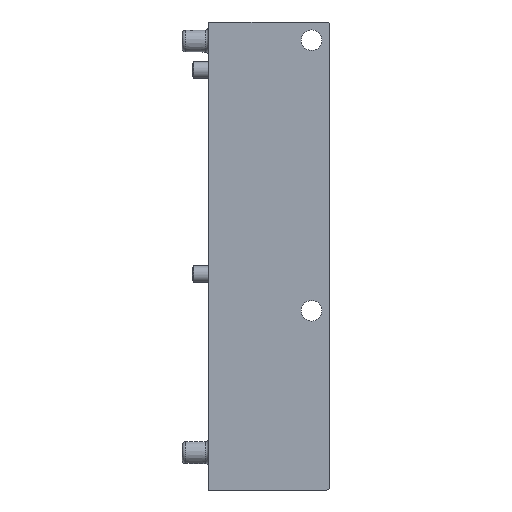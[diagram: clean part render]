
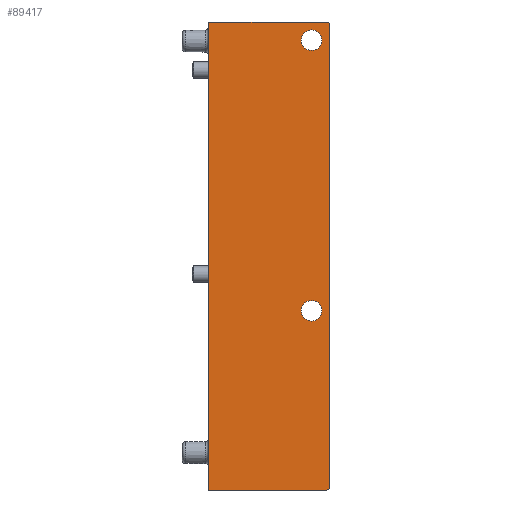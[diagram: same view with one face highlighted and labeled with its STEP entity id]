
A CAD part, front view. The second image highlights one B-rep face of the part: STEP entity #89417.
In plain terms, the highlighted planar face has unit normal (0, -1, 0).
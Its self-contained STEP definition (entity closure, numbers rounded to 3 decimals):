
#2468 = VERTEX_POINT ( 'NONE', #60011 ) ;
#4922 = VECTOR ( 'NONE', #58584, 1000. ) ;
#5177 = EDGE_CURVE ( 'NONE', #38485, #89842, #79753, .T. ) ;
#6629 = DIRECTION ( 'NONE',  ( 1., 0., 0. ) ) ;
#6823 = EDGE_CURVE ( 'NONE', #2468, #2468, #68220, .T. ) ;
#7840 = CARTESIAN_POINT ( 'NONE',  ( 18.75, 0., 70.5 ) ) ;
#8218 = VECTOR ( 'NONE', #38830, 1000. ) ;
#9664 = AXIS2_PLACEMENT_3D ( 'NONE', #81141, #33869, #89060 ) ;
#10654 = VERTEX_POINT ( 'NONE', #73392 ) ;
#16443 = AXIS2_PLACEMENT_3D ( 'NONE', #26537, #81852, #34555 ) ;
#19778 = EDGE_LOOP ( 'NONE', ( #100662, #23281, #50696, #42378, #75337, #80488 ) ) ;
#21852 = DIRECTION ( 'NONE',  ( 0., -1., 0. ) ) ;
#23245 = FACE_BOUND ( 'NONE', #80343, .T. ) ;
#23281 = ORIENTED_EDGE ( 'NONE', *, *, #5177, .T. ) ;
#23469 = VERTEX_POINT ( 'NONE', #56837 ) ;
#23476 = AXIS2_PLACEMENT_3D ( 'NONE', #101208, #53967, #6629 ) ;
#24047 = VERTEX_POINT ( 'NONE', #96062 ) ;
#25886 = LINE ( 'NONE', #50692, #4922 ) ;
#26537 = CARTESIAN_POINT ( 'NONE',  ( 7.75, 0., 70.5 ) ) ;
#26706 = VERTEX_POINT ( 'NONE', #91018 ) ;
#28735 = CIRCLE ( 'NONE', #33852, 1. ) ;
#29967 = EDGE_CURVE ( 'NONE', #38485, #26706, #37798, .T. ) ;
#33486 = EDGE_CURVE ( 'NONE', #24047, #10654, #92225, .T. ) ;
#33852 = AXIS2_PLACEMENT_3D ( 'NONE', #69146, #21852, #77060 ) ;
#33869 = DIRECTION ( 'NONE',  ( 0., 1., 0. ) ) ;
#34555 = DIRECTION ( 'NONE',  ( 1., 0., 0. ) ) ;
#36272 = CARTESIAN_POINT ( 'NONE',  ( 7.75, 0., -70.5 ) ) ;
#36693 = DIRECTION ( 'NONE',  ( 0., 1., 0. ) ) ;
#37798 = LINE ( 'NONE', #36272, #58746 ) ;
#38485 = VERTEX_POINT ( 'NONE', #90427 ) ;
#38830 = DIRECTION ( 'NONE',  ( -1., 0., 0. ) ) ;
#41707 = EDGE_CURVE ( 'NONE', #77813, #77813, #47291, .T. ) ;
#42218 = PLANE ( 'NONE',  #16443 ) ;
#42378 = ORIENTED_EDGE ( 'NONE', *, *, #44539, .T. ) ;
#42638 = AXIS2_PLACEMENT_3D ( 'NONE', #83966, #36693, #91907 ) ;
#44539 = EDGE_CURVE ( 'NONE', #23469, #24047, #28735, .T. ) ;
#47291 = CIRCLE ( 'NONE', #9664, 3.093 ) ;
#48121 = EDGE_CURVE ( 'NONE', #89842, #23469, #55091, .T. ) ;
#49568 = EDGE_LOOP ( 'NONE', ( #94803 ) ) ;
#50692 = CARTESIAN_POINT ( 'NONE',  ( -17.75, 0., 70.5 ) ) ;
#50696 = ORIENTED_EDGE ( 'NONE', *, *, #48121, .T. ) ;
#52430 = EDGE_CURVE ( 'NONE', #10654, #26706, #25886, .T. ) ;
#52633 = VECTOR ( 'NONE', #55115, 1000. ) ;
#53967 = DIRECTION ( 'NONE',  ( 0., -1., 0. ) ) ;
#55091 = LINE ( 'NONE', #7840, #52633 ) ;
#55115 = DIRECTION ( 'NONE',  ( 0., 0., 1. ) ) ;
#56837 = CARTESIAN_POINT ( 'NONE',  ( 18.75, 0., 69.5 ) ) ;
#58584 = DIRECTION ( 'NONE',  ( 0., 0., -1. ) ) ;
#58746 = VECTOR ( 'NONE', #83548, 1000. ) ;
#60011 = CARTESIAN_POINT ( 'NONE',  ( 16.343, 0., 65. ) ) ;
#62118 = CARTESIAN_POINT ( 'NONE',  ( 18.75, 0., -69.5 ) ) ;
#62824 = FACE_OUTER_BOUND ( 'NONE', #19778, .T. ) ;
#68220 = CIRCLE ( 'NONE', #42638, 3.093 ) ;
#69146 = CARTESIAN_POINT ( 'NONE',  ( 17.75, 0., 69.5 ) ) ;
#73392 = CARTESIAN_POINT ( 'NONE',  ( -17.75, 0., 70.5 ) ) ;
#75337 = ORIENTED_EDGE ( 'NONE', *, *, #33486, .T. ) ;
#77060 = DIRECTION ( 'NONE',  ( 1., 0., 0. ) ) ;
#77813 = VERTEX_POINT ( 'NONE', #94166 ) ;
#79753 = CIRCLE ( 'NONE', #23476, 1. ) ;
#80343 = EDGE_LOOP ( 'NONE', ( #80677 ) ) ;
#80488 = ORIENTED_EDGE ( 'NONE', *, *, #52430, .T. ) ;
#80677 = ORIENTED_EDGE ( 'NONE', *, *, #6823, .T. ) ;
#81141 = CARTESIAN_POINT ( 'NONE',  ( 13.25, 0., -16.5 ) ) ;
#81852 = DIRECTION ( 'NONE',  ( 0., 1., 0. ) ) ;
#83548 = DIRECTION ( 'NONE',  ( -1., 0., 0. ) ) ;
#83836 = FACE_BOUND ( 'NONE', #49568, .T. ) ;
#83966 = CARTESIAN_POINT ( 'NONE',  ( 13.25, 0., 65. ) ) ;
#86075 = CARTESIAN_POINT ( 'NONE',  ( 7.75, 0., 70.5 ) ) ;
#89060 = DIRECTION ( 'NONE',  ( 1., 0., 0. ) ) ;
#89417 = ADVANCED_FACE ( 'NONE', ( #83836, #23245, #62824 ), #42218, .F. ) ;
#89842 = VERTEX_POINT ( 'NONE', #62118 ) ;
#90427 = CARTESIAN_POINT ( 'NONE',  ( 17.75, 0., -70.5 ) ) ;
#91018 = CARTESIAN_POINT ( 'NONE',  ( -17.75, 0., -70.5 ) ) ;
#91907 = DIRECTION ( 'NONE',  ( 1., 0., 0. ) ) ;
#92225 = LINE ( 'NONE', #86075, #8218 ) ;
#94166 = CARTESIAN_POINT ( 'NONE',  ( 16.343, 0., -16.5 ) ) ;
#94803 = ORIENTED_EDGE ( 'NONE', *, *, #41707, .T. ) ;
#96062 = CARTESIAN_POINT ( 'NONE',  ( 17.75, 0., 70.5 ) ) ;
#100662 = ORIENTED_EDGE ( 'NONE', *, *, #29967, .F. ) ;
#101208 = CARTESIAN_POINT ( 'NONE',  ( 17.75, 0., -69.5 ) ) ;
